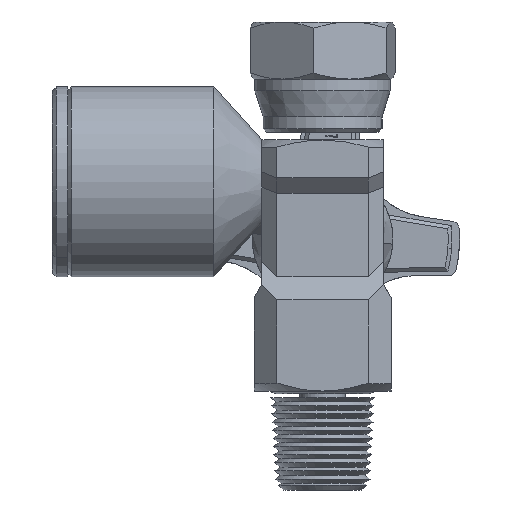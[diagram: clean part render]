
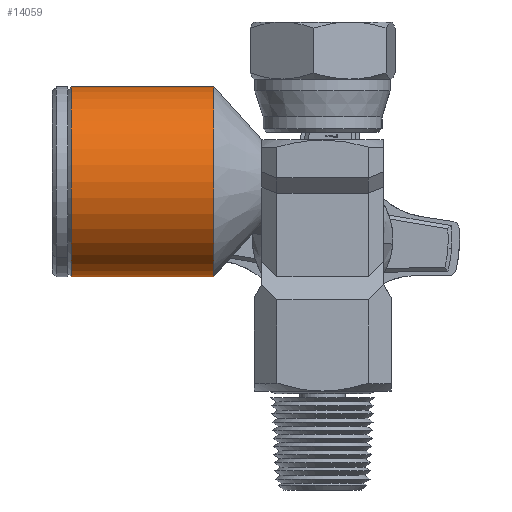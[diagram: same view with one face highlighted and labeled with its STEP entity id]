
A CAD part, front view. The second image highlights one B-rep face of the part: STEP entity #14059.
In plain terms, the highlighted cylindrical face has radius 12.5 mm (diameter 25 mm), a partial arc.
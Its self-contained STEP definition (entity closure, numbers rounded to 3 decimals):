
#272 = DIRECTION ( 'NONE',  ( 0., 0., -1. ) ) ;
#475 = DIRECTION ( 'NONE',  ( 0., 0., 1. ) ) ;
#1018 = EDGE_CURVE ( 'NONE', #17665, #1976, #4723, .T. ) ;
#1976 = VERTEX_POINT ( 'NONE', #24727 ) ;
#1983 = DIRECTION ( 'NONE',  ( 0., 0., 1. ) ) ;
#2462 = CARTESIAN_POINT ( 'NONE',  ( -33.5, 1., -12.5 ) ) ;
#2570 = CARTESIAN_POINT ( 'NONE',  ( -14.303, 1., -25. ) ) ;
#4590 = CYLINDRICAL_SURFACE ( 'NONE', #27193, 12.5 ) ;
#4723 = CIRCLE ( 'NONE', #5226, 12.5 ) ;
#5226 = AXIS2_PLACEMENT_3D ( 'NONE', #28996, #15505, #1983 ) ;
#5283 = DIRECTION ( 'NONE',  ( 1., 0., 0. ) ) ;
#6921 = DIRECTION ( 'NONE',  ( 1., 0., 0. ) ) ;
#7449 = FACE_OUTER_BOUND ( 'NONE', #28347, .T. ) ;
#7769 = CARTESIAN_POINT ( 'NONE',  ( -33.5, 1., 0. ) ) ;
#8565 = VECTOR ( 'NONE', #5283, 1000. ) ;
#11380 = LINE ( 'NONE', #7769, #8565 ) ;
#12184 = CIRCLE ( 'NONE', #26914, 12.5 ) ;
#12619 = ORIENTED_EDGE ( 'NONE', *, *, #23481, .T. ) ;
#13847 = ORIENTED_EDGE ( 'NONE', *, *, #24237, .F. ) ;
#13986 = DIRECTION ( 'NONE',  ( -1., 0., 0. ) ) ;
#14059 = ADVANCED_FACE ( 'NONE', ( #7449 ), #4590, .T. ) ;
#14097 = VERTEX_POINT ( 'NONE', #2570 ) ;
#15213 = DIRECTION ( 'NONE',  ( 1., 0., 0. ) ) ;
#15505 = DIRECTION ( 'NONE',  ( 1., 0., 0. ) ) ;
#17665 = VERTEX_POINT ( 'NONE', #27589 ) ;
#20697 = VERTEX_POINT ( 'NONE', #27514 ) ;
#22132 = LINE ( 'NONE', #28699, #27415 ) ;
#22218 = ORIENTED_EDGE ( 'NONE', *, *, #1018, .T. ) ;
#22901 = EDGE_CURVE ( 'NONE', #1976, #14097, #22132, .T. ) ;
#23481 = EDGE_CURVE ( 'NONE', #14097, #20697, #12184, .T. ) ;
#24135 = ORIENTED_EDGE ( 'NONE', *, *, #22901, .T. ) ;
#24237 = EDGE_CURVE ( 'NONE', #17665, #20697, #11380, .T. ) ;
#24727 = CARTESIAN_POINT ( 'NONE',  ( -33., 1., -25. ) ) ;
#26914 = AXIS2_PLACEMENT_3D ( 'NONE', #27497, #13986, #475 ) ;
#27193 = AXIS2_PLACEMENT_3D ( 'NONE', #2462, #6921, #272 ) ;
#27415 = VECTOR ( 'NONE', #15213, 1000. ) ;
#27497 = CARTESIAN_POINT ( 'NONE',  ( -14.303, 1., -12.5 ) ) ;
#27514 = CARTESIAN_POINT ( 'NONE',  ( -14.303, 1., 0. ) ) ;
#27589 = CARTESIAN_POINT ( 'NONE',  ( -33., 1., 0. ) ) ;
#28347 = EDGE_LOOP ( 'NONE', ( #13847, #22218, #24135, #12619 ) ) ;
#28699 = CARTESIAN_POINT ( 'NONE',  ( -33.5, 1., -25. ) ) ;
#28996 = CARTESIAN_POINT ( 'NONE',  ( -33., 1., -12.5 ) ) ;
